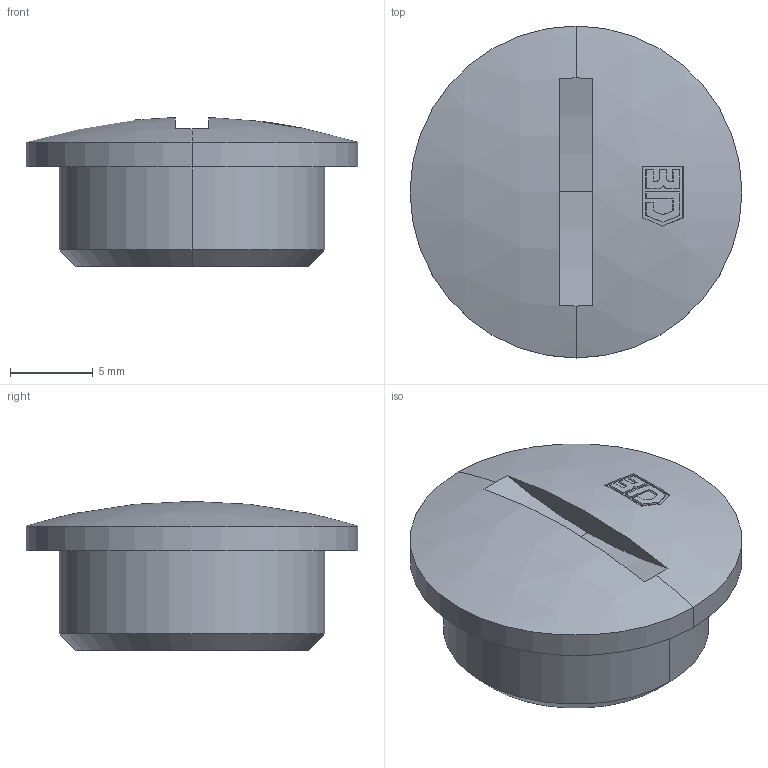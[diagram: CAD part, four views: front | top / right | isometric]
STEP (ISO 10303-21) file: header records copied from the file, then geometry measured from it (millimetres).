
FILE_DESCRIPTION (( 'STEP AP203' ), '1' );
FILE_NAME ('10.1615.STEP', '2005-10-06T12:32:35', ( ' ' ), ( '' ), 'SwSTEP 2.0', 'SolidWorks 2005143', '' );
FILE_SCHEMA (( 'CONFIG_CONTROL_DESIGN' ));
Length unit declared in the file: millimetre
Products named in the file (1): 10.1615
Bounding box: 20 x 20 x 8.99 mm (x, y, z)
Volume: 1124.4 mm3; surface area: 1259.5 mm2
Topology: 1 solids, 1 shells, 56 faces, 141 edges, 92 vertices
Faces by surface type: plane 39, cylinder 8, sphere 5, cone 4
Entity records: 1826 total; most frequent: CARTESIAN_POINT 348, DIRECTION 323, ORIENTED_EDGE 282, EDGE_CURVE 141, AXIS2_PLACEMENT_3D 139, VERTEX_POINT 92, CIRCLE 82, EDGE_LOOP 61
